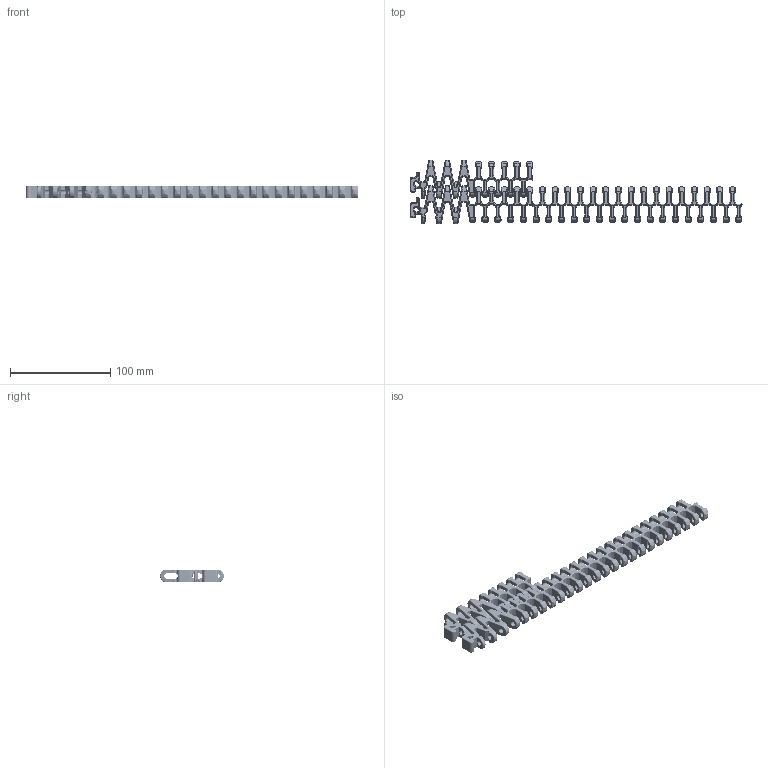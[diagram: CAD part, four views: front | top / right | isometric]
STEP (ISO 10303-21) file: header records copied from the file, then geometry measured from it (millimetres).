
FILE_DESCRIPTION(/* description */ (''),/* implementation_level */ '2;1');
FILE_NAME(/* name */ 'HS-2400B.stp',/* time_stamp */ '2021-08-09T11:37:18+08:00',/* author */ (''),/* organization */ (''),/* preprocessor_version */ 'ST-DEVELOPER v15',/* originating_system */ 'SIEMENS PLM Software NX 8.5',/* authorisation */ '');
FILE_SCHEMA (('AP203_CONFIGURATION_CONTROLLED_3D_DESIGN_OF_MECHANICAL_PARTS_AND_ASSEMBLIES_MIM_LF { 1 0 10303 403 2 1 2}'));
Products named in the file (1): Admi0BD0659Ajpq4
Bounding box: 331.93 x 63.7 x 12.9 mm (x, y, z)
Volume: 64206 mm3; surface area: 51938.9 mm2
Topology: 3 solids, 3 shells, 5522 faces, 13426 edges, 7766 vertices
Faces by surface type: cylinder 1850, bspline 1806, plane 1036, extrusion 332, torus 248, sphere 142, cone 108
Full cylindrical faces by diameter (mm): 4.9 x17
Entity records: 209848 total; most frequent: CARTESIAN_POINT 96753, ORIENTED_EDGE 26802, DIRECTION 19606, EDGE_CURVE 13401, VERTEX_POINT 7766, AXIS2_PLACEMENT_3D 7303, EDGE_LOOP 5549, ADVANCED_FACE 5522
